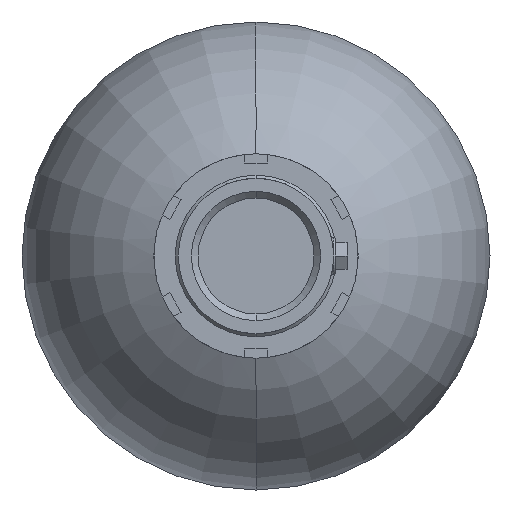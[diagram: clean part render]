
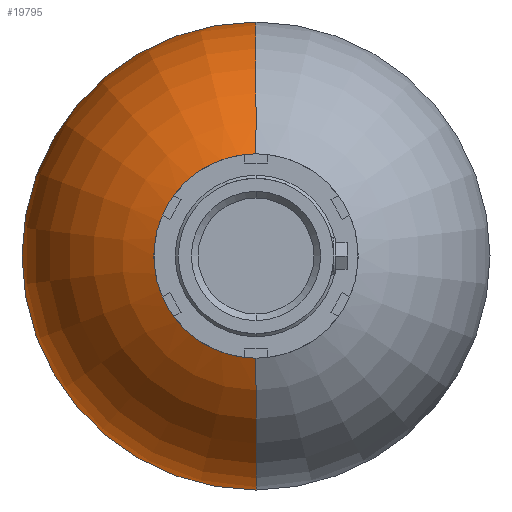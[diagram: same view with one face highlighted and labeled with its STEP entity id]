
A CAD part, front view. The second image highlights one B-rep face of the part: STEP entity #19795.
In plain terms, the highlighted toroidal (fillet/blend) face has major radius 3.9 mm and minor radius 110.6 mm.
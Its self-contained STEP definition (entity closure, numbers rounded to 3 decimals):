
#1498 = AXIS2_PLACEMENT_3D ( 'NONE', #4567, #10208, #10568 ) ;
#1655 = AXIS2_PLACEMENT_3D ( 'NONE', #22656, #3571, #7067 ) ;
#2197 = CARTESIAN_POINT ( 'NONE',  ( 0., -675., -50. ) ) ;
#2550 = DIRECTION ( 'NONE',  ( 0., 1., 0. ) ) ;
#2836 = VERTEX_POINT ( 'NONE', #24648 ) ;
#3571 = DIRECTION ( 'NONE',  ( 0., 1., 0. ) ) ;
#4268 = ORIENTED_EDGE ( 'NONE', *, *, #14555, .F. ) ;
#4567 = CARTESIAN_POINT ( 'NONE',  ( 0., -574.466, 3.9 ) ) ;
#5423 = CARTESIAN_POINT ( 'NONE',  ( 0., -574.466, -3.9 ) ) ;
#6443 = CARTESIAN_POINT ( 'NONE',  ( 0., -675., 0. ) ) ;
#6918 = DIRECTION ( 'NONE',  ( 1., 0., 0. ) ) ;
#7067 = DIRECTION ( 'NONE',  ( 0., 0., -1. ) ) ;
#7825 = AXIS2_PLACEMENT_3D ( 'NONE', #6443, #2550, #21765 ) ;
#8434 = VERTEX_POINT ( 'NONE', #16335 ) ;
#8803 = EDGE_CURVE ( 'NONE', #23192, #8434, #18577, .T. ) ;
#8926 = DIRECTION ( 'NONE',  ( 0., 1., 0. ) ) ;
#9176 = EDGE_LOOP ( 'NONE', ( #9307, #9695, #9332, #4268 ) ) ;
#9223 = CIRCLE ( 'NONE', #1655, 114.5 ) ;
#9307 = ORIENTED_EDGE ( 'NONE', *, *, #8803, .T. ) ;
#9332 = ORIENTED_EDGE ( 'NONE', *, *, #13451, .F. ) ;
#9695 = ORIENTED_EDGE ( 'NONE', *, *, #16670, .T. ) ;
#10208 = DIRECTION ( 'NONE',  ( -1., 0., 0. ) ) ;
#10427 = AXIS2_PLACEMENT_3D ( 'NONE', #11303, #15049, #13312 ) ;
#10568 = DIRECTION ( 'NONE',  ( 0., 0., 1. ) ) ;
#10774 = CIRCLE ( 'NONE', #21909, 110.6 ) ;
#11303 = CARTESIAN_POINT ( 'NONE',  ( 0., -574.466, 0. ) ) ;
#11409 = VERTEX_POINT ( 'NONE', #16440 ) ;
#12451 = TOROIDAL_SURFACE ( 'NONE', #10427, 3.9, 110.6 ) ;
#13312 = DIRECTION ( 'NONE',  ( 0., 0., -1. ) ) ;
#13451 = EDGE_CURVE ( 'NONE', #2836, #11409, #9223, .T. ) ;
#14555 = EDGE_CURVE ( 'NONE', #23192, #2836, #10774, .T. ) ;
#15049 = DIRECTION ( 'NONE',  ( 0., 1., 0. ) ) ;
#16335 = CARTESIAN_POINT ( 'NONE',  ( 0., -675., 50. ) ) ;
#16440 = CARTESIAN_POINT ( 'NONE',  ( 0., -574.466, 114.5 ) ) ;
#16670 = EDGE_CURVE ( 'NONE', #8434, #11409, #21439, .T. ) ;
#18577 = CIRCLE ( 'NONE', #7825, 50. ) ;
#19795 = ADVANCED_FACE ( 'NONE', ( #20750 ), #12451, .T. ) ;
#20750 = FACE_OUTER_BOUND ( 'NONE', #9176, .T. ) ;
#21439 = CIRCLE ( 'NONE', #1498, 110.6 ) ;
#21765 = DIRECTION ( 'NONE',  ( 0., 0., 1. ) ) ;
#21909 = AXIS2_PLACEMENT_3D ( 'NONE', #5423, #6918, #8926 ) ;
#22656 = CARTESIAN_POINT ( 'NONE',  ( 0., -574.466, 0. ) ) ;
#23192 = VERTEX_POINT ( 'NONE', #2197 ) ;
#24648 = CARTESIAN_POINT ( 'NONE',  ( 0., -574.466, -114.5 ) ) ;
